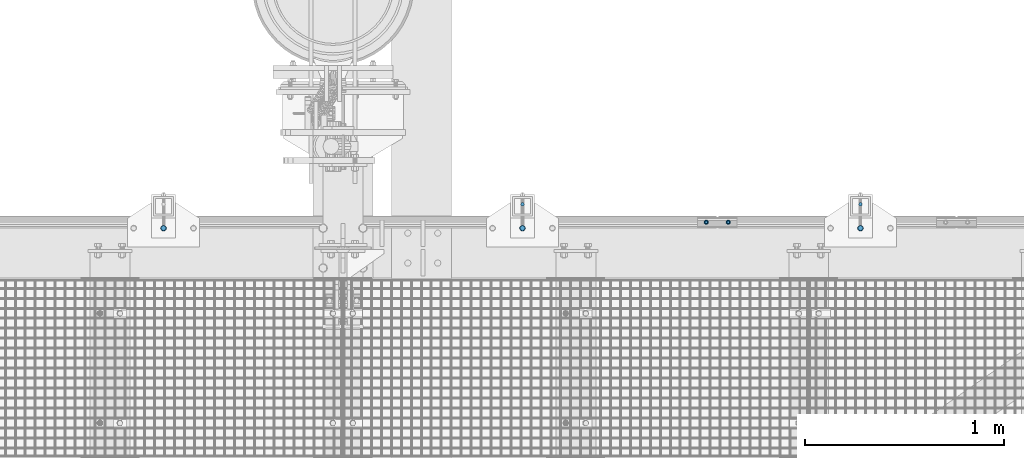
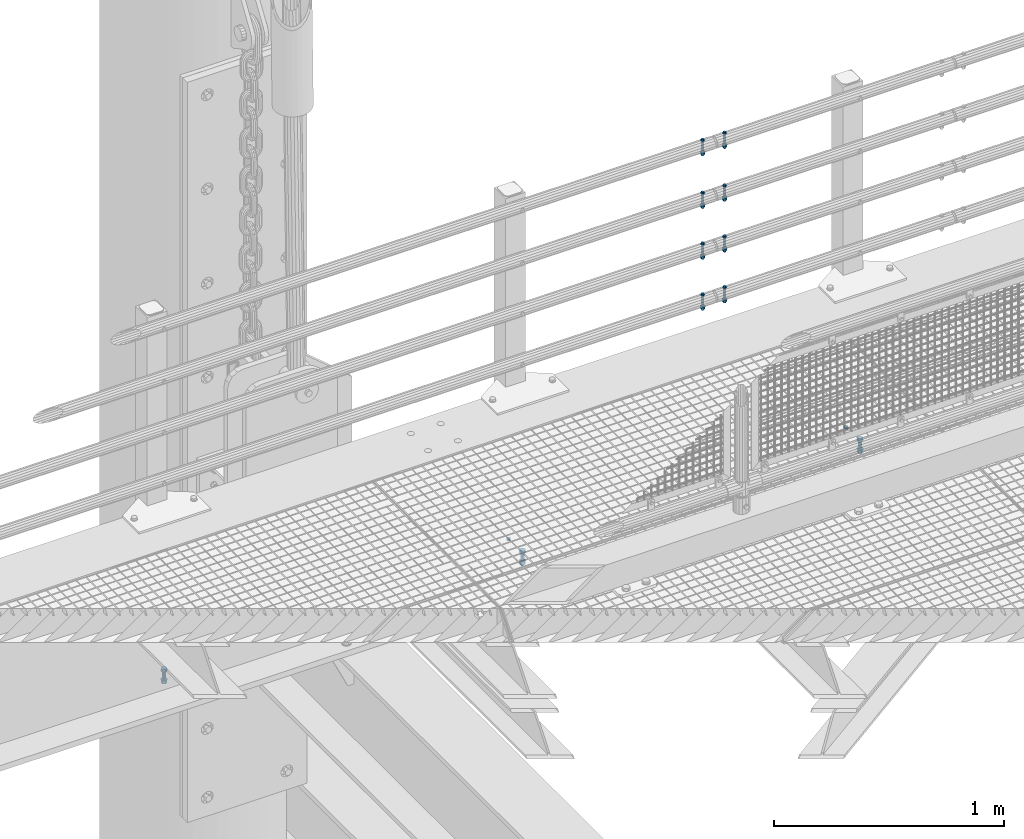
# One storey, part 102 of 1530: 13 mechanical fasteners.
"""IFC2X3 building model written with IfcOpenShell, lengths in millimetres."""

from ifc_helpers import new_model, si_unit, frame, origin_with_axes, place, context, subcontext, project, spatial, faceted_brep, source, transform, mapped, material, type_object, element, save


model = new_model("IFC2X3")

# Units and contexts
model_context = context("Model", 3, precision=1e-05, world=origin_with_axes())
body_context = subcontext(model_context, "Body", "Model", "MODEL_VIEW")
ifc_project = project(units=[si_unit("LENGTHUNIT", "METRE", prefix="MILLI"), si_unit("AREAUNIT", "SQUARE_METRE"), si_unit("VOLUMEUNIT", "CUBIC_METRE"), si_unit("MASSUNIT", "GRAM", prefix="KILO"), si_unit("TIMEUNIT", "SECOND"), si_unit("PLANEANGLEUNIT", "RADIAN"), si_unit("SOLIDANGLEUNIT", "STERADIAN"), si_unit("THERMODYNAMICTEMPERATUREUNIT", "DEGREE_CELSIUS"), si_unit("LUMINOUSINTENSITYUNIT", "LUMEN")], contexts=[model_context])

# Site, building, storey
site_placement = place(None, origin_with_axes())
site = spatial("IfcSite", under=ifc_project, at=site_placement, Name="Brattvåg", CompositionType="ELEMENT")
building_placement = place(site_placement, origin_with_axes())
building = spatial("IfcBuilding", under=site, at=building_placement, Name="Undefined", CompositionType="ELEMENT")
storey_placement = place(building_placement, origin_with_axes())
storey = spatial("IfcBuildingStorey", under=building, at=storey_placement, Name="Undefined", CompositionType="ELEMENT", Elevation=0.0)

# Mechanical fasteners
ifc_material = material(Name="8")
mechanical_fastener_type = type_object("IfcMechanicalFastenerType", Name="Bolt assembly")
shared_shape_1 = source(origin_with_axes(), body_context, "Body", "Brep", [
    faceted_brep([(9.0, -0.000108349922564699, 0.0), (7.79422863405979, -0.000108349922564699, 4.50000000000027), (4.49999999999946, -0.000108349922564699, 7.79422863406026), (-9.3270238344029e-13, -0.000108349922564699, 9.0), (-4.50000000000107, -0.000108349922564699, 7.79422863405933), (-7.79422863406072, -0.000108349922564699, 4.49999999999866), (-9.0, -0.000108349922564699, -1.86540476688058e-12), (-7.79422863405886, -0.000108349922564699, -4.50000000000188), (-4.49999999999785, -0.000108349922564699, -7.79422863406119), (2.78811514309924e-12, -0.000108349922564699, -9.0), (4.50000000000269, -0.000108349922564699, -7.7942286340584), (7.79422863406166, -0.000108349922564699, -4.49999999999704), (7.79422863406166, 10.0998916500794, -4.49999999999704), (4.50000000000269, 10.0998916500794, -7.7942286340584), (2.78811514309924e-12, 10.0998916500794, -9.0), (-4.49999999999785, 10.0998916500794, -7.79422863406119), (-7.79422863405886, 10.0998916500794, -4.50000000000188), (-9.0, 10.0998916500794, -1.86540476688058e-12), (-7.79422863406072, 10.0998916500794, 4.49999999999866), (-4.50000000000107, 10.0998916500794, 7.79422863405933), (-9.3270238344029e-13, 10.0998916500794, 9.0), (4.49999999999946, 10.0998916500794, 7.79422863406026), (7.79422863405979, 10.0998916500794, 4.50000000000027), (9.0, 10.0998916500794, 0.0)], [[[0, 1, 2, 3, 4, 5, 6, 7, 8, 9, 10, 11]], [[12, 13, 14, 15, 16, 17, 18, 19, 20, 21, 22, 23]], [[0, 23, 22, 1]], [[1, 22, 21, 2]], [[2, 21, 20, 3]], [[3, 20, 19, 4]], [[4, 19, 18, 5]], [[5, 18, 17, 6]], [[6, 17, 16, 7]], [[7, 16, 15, 8]], [[8, 15, 14, 9]], [[9, 14, 13, 10]], [[10, 13, 12, 11]], [[11, 12, 23, 0]]]),
])
for number, where, z_axis, x_axis, name in (
    (1, (13150.0001602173, 9219.99992874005, -855.000061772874), (-1.0, 1.99999855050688e-09, 0.0), (0.0, -0.99999999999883, 1.53000000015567e-06), "Bolt assembly"),
    (2, (14845.0001602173, 9219.99992874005, -855.000061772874), (-1.0, 1.99999855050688e-09, 0.0), (0.0, -0.99999999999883, 1.53000000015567e-06), "Bolt assembly"),
):
    element("IfcMechanicalFastener", number, at=place(storey_placement, frame(where, z_axis=z_axis, x_axis=x_axis)), inside=storey, type_object=mechanical_fastener_type, material=ifc_material, Name=name, NominalDiameter=16.0, NominalLength=10.0001087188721, context=body_context, shape_type="MappedRepresentation", body=[
        mapped(shared_shape_1, transform((0.0, 0.0, 0.0))),
    ])
shared_shape_2 = source(origin_with_axes(), body_context, "Body", "Brep", [
    faceted_brep([(6.49435320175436, -7.50000000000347, 0.0), (4.59220118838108, -7.50000000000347, 4.59220118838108), (3.97664443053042e-16, -7.50000000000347, 6.49435320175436), (-4.59220118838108, -7.50000000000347, 4.59220118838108), (-6.49435320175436, -7.50000000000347, 7.95328886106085e-16), (-4.59220118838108, -7.50000000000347, -4.59220118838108), (-1.19299332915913e-15, -7.50000000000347, -6.49435320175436), (4.59220118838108, -7.50000000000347, -4.59220118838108), (7.34846922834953, -3.46744855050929e-12, -7.34846922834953), (-1.90903542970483e-15, -3.46744855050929e-12, -10.3923048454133), (-7.34846922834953, -3.46744855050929e-12, -7.34846922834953), (-10.3923048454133, 3.46808519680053e-07, 1.27269028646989e-15), (-7.34846922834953, -3.46744855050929e-12, 7.34846922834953), (6.36345143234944e-16, -3.46744855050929e-12, 10.3923048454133), (7.34846922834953, -3.46744855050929e-12, 7.34846922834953), (10.3923048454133, 3.46808519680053e-07, 0.0), (6.0, 3.46808519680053e-07, 0.0), (5.19615242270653, 3.46808519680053e-07, 3.00000000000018), (2.99999999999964, 3.46808519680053e-07, 5.19615242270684), (-6.21801588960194e-13, 3.46808519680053e-07, 6.0), (-3.00000000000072, 3.46808519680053e-07, 5.19615242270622), (-5.19615242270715, 3.46808519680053e-07, 2.9999999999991), (-6.0, 3.46808519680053e-07, -1.24360317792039e-12), (-5.19615242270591, 3.46808519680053e-07, -3.00000000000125), (-2.99999999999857, 3.46808519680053e-07, -5.19615242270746), (1.85874342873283e-12, 3.46808519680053e-07, -6.0), (3.00000000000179, 3.46808519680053e-07, -5.1961524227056), (5.19615242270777, 3.46808519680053e-07, -2.99999999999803), (5.19615242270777, 79.9999999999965, -2.99999999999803), (3.00000000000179, 79.9999999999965, -5.1961524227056), (1.85874342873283e-12, 79.9999999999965, -6.0), (-2.99999999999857, 79.9999999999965, -5.19615242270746), (-5.19615242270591, 79.9999999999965, -3.00000000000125), (-6.0, 79.9999999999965, -1.24360317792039e-12), (-5.19615242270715, 79.9999999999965, 2.9999999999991), (-3.00000000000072, 79.9999999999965, 5.19615242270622), (-6.21801588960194e-13, 79.9999999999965, 6.0), (2.99999999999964, 79.9999999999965, 5.19615242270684), (5.19615242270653, 79.9999999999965, 3.00000000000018), (6.0, 79.9999999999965, 0.0), (12.0, 60.2988956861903, 0.0), (10.3923048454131, 60.2988956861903, 6.00000000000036), (5.99999999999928, 60.2988956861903, 10.3923048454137), (-1.24360317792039e-12, 60.2988956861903, 12.0), (-6.00000000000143, 60.2988956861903, 10.3923048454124), (-10.3923048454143, 60.2988956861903, 5.99999999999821), (-12.0, 60.2988956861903, -2.48720635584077e-12), (-10.3923048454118, 60.2988956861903, -6.00000000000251), (-5.99999999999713, 60.2988956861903, -10.3923048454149), (3.71748685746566e-12, 60.2988956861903, -12.0), (6.00000000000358, 60.2988956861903, -10.3923048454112), (10.3923048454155, 60.2988956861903, -5.99999999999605), (10.3923048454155, 62.7988956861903, -5.99999999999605), (6.00000000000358, 62.7988956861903, -10.3923048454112), (3.71748685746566e-12, 62.7988956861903, -12.0), (-5.99999999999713, 62.7988956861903, -10.3923048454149), (-10.3923048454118, 62.7988956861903, -6.00000000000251), (-12.0, 62.7988956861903, -2.48720635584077e-12), (-10.3923048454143, 62.7988956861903, 5.99999999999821), (-6.00000000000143, 62.7988956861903, 10.3923048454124), (-1.24360317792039e-12, 62.7988956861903, 12.0), (5.99999999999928, 62.7988956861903, 10.3923048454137), (10.3923048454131, 62.7988956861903, 6.00000000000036), (12.0, 62.7988956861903, 0.0), (10.9696551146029, 62.7988956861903, 0.0), (5.48482755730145, 62.7988956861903, 9.5), (-5.48482755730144, 62.7988956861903, 9.5), (-10.9696551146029, 62.7988956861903, 1.34339530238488e-15), (-5.48482755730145, 62.7988956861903, -9.5), (5.48482755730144, 62.7988956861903, -9.5), (5.48482755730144, 73.5988958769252, -9.5), (-5.48482755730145, 73.5988958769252, -9.5), (-10.9696551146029, 73.5988958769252, 1.34339530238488e-15), (-5.48482755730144, 73.5988958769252, 9.5), (5.48482755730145, 73.5988958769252, 9.5), (10.9696551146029, 73.5988958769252, 0.0)], [[[0, 1, 2, 3, 4, 5, 6, 7]], [[8, 9, 10, 11, 12, 13, 14, 15]], [[0, 15, 14, 1]], [[1, 14, 13, 2]], [[2, 13, 12, 3]], [[3, 12, 11, 4]], [[4, 11, 10, 5]], [[5, 10, 9, 6]], [[6, 9, 8, 7]], [[7, 8, 15, 0]], [[16, 17, 18, 19, 20, 21, 22, 23, 24, 25, 26, 27]], [[28, 29, 30, 31, 32, 33, 34, 35, 36, 37, 38, 39]], [[16, 39, 38, 17]], [[17, 38, 37, 18]], [[18, 37, 36, 19]], [[19, 36, 35, 20]], [[20, 35, 34, 21]], [[21, 34, 33, 22]], [[22, 33, 32, 23]], [[23, 32, 31, 24]], [[24, 31, 30, 25]], [[25, 30, 29, 26]], [[26, 29, 28, 27]], [[27, 28, 39, 16]], [[40, 41, 42, 43, 44, 45, 46, 47, 48, 49, 50, 51]], [[52, 53, 54, 55, 56, 57, 58, 59, 60, 61, 62, 63]], [[40, 63, 62, 41]], [[41, 62, 61, 42]], [[42, 61, 60, 43]], [[43, 60, 59, 44]], [[44, 59, 58, 45]], [[45, 58, 57, 46]], [[46, 57, 56, 47]], [[47, 56, 55, 48]], [[48, 55, 54, 49]], [[49, 54, 53, 50]], [[50, 53, 52, 51]], [[51, 52, 63, 40]], [[64, 65, 66, 67, 68, 69]], [[70, 71, 72, 73, 74, 75]], [[64, 75, 74, 65]], [[65, 74, 73, 66]], [[66, 73, 72, 67]], [[67, 72, 71, 68]], [[68, 71, 70, 69]], [[69, 70, 75, 64]]]),
    faceted_brep([(6.5, 0.100000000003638, 0.0), (5.62916512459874, 0.100000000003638, 3.25000000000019), (3.24999999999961, 0.100000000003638, 5.62916512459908), (-6.7361838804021e-13, 0.100000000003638, 6.5), (-3.25000000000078, 0.100000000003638, 5.6291651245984), (-5.62916512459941, 0.100000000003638, 3.24999999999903), (-6.5, 0.100000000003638, -1.34723677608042e-12), (-5.62916512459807, 0.100000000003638, -3.25000000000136), (-3.24999999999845, 0.100000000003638, -5.62916512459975), (2.01363871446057e-12, 0.100000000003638, -6.5), (3.25000000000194, 0.100000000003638, -5.62916512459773), (5.62916512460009, 0.100000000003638, -3.24999999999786), (5.62916512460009, 60.3988956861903, -3.24999999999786), (3.25000000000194, 60.3988956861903, -5.62916512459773), (2.01363871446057e-12, 60.3988956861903, -6.5), (-3.24999999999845, 60.3988956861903, -5.62916512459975), (-5.62916512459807, 60.3988956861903, -3.25000000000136), (-6.5, 60.3988956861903, -1.34723677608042e-12), (-5.62916512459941, 60.3988956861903, 3.24999999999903), (-3.25000000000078, 60.3988956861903, 5.6291651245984), (-6.7361838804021e-13, 60.3988956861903, 6.5), (3.24999999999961, 60.3988956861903, 5.62916512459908), (5.62916512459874, 60.3988956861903, 3.25000000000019), (6.5, 60.3988956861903, 0.0), (6.5, 4.25026510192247, 0.0), (5.62916512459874, 4.25026510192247, 3.25000000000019), (3.24999999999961, 4.25026510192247, 5.62916512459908), (-6.7361838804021e-13, 4.25026510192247, 6.5), (-3.25000000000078, 4.25026510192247, 5.6291651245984), (-5.62916512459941, 4.25026510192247, 3.24999999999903), (-6.5, 4.25026510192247, -1.34723677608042e-12), (-5.62916512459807, 4.25026510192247, -3.25000000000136), (-3.24999999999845, 4.25026510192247, -5.62916512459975), (2.01363871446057e-12, 4.25026510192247, -6.5), (3.25000000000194, 4.25026510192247, -5.62916512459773), (5.62916512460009, 4.25026510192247, -3.24999999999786), (5.62916512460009, 55.3491717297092, -3.24999999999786), (3.25000000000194, 55.3491717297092, -5.62916512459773), (2.01363871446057e-12, 55.3491717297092, -6.5), (-3.24999999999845, 55.3491717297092, -5.62916512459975), (-5.62916512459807, 55.3491717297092, -3.25000000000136), (-6.5, 55.3491717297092, -1.34723677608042e-12), (-5.62916512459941, 55.3491717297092, 3.24999999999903), (-3.25000000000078, 55.3491717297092, 5.6291651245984), (-6.7361838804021e-13, 55.3491717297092, 6.5), (3.24999999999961, 55.3491717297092, 5.62916512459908), (5.62916512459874, 55.3491717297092, 3.25000000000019), (6.5, 55.3491717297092, 0.0)], [[[0, 1, 2, 3, 4, 5, 6, 7, 8, 9, 10, 11]], [[12, 13, 14, 15, 16, 17, 18, 19, 20, 21, 22, 23]], [[0, 23, 22, 1]], [[1, 22, 21, 2]], [[2, 21, 20, 3]], [[3, 20, 19, 4]], [[4, 19, 18, 5]], [[5, 18, 17, 6]], [[6, 17, 16, 7]], [[7, 16, 15, 8]], [[8, 15, 14, 9]], [[9, 14, 13, 10]], [[10, 13, 12, 11]], [[11, 12, 23, 0]], [[24, 25, 26, 27, 28, 29, 30, 31, 32, 33, 34, 35]], [[36, 37, 38, 39, 40, 41, 42, 43, 44, 45, 46, 47]], [[24, 47, 46, 25]], [[25, 46, 45, 26]], [[26, 45, 44, 27]], [[27, 44, 43, 28]], [[28, 43, 42, 29]], [[29, 42, 41, 30]], [[30, 41, 40, 31]], [[31, 40, 39, 32]], [[32, 39, 38, 33]], [[33, 38, 37, 34]], [[34, 37, 36, 35]], [[35, 36, 47, 24]]]),
])
for number, where, z_axis, x_axis, name in (
    (3, (14072.0001373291, 9129.84988021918, 179.7000579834), (1.0, 0.0, 0.0), (0.0, -0.999999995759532, -9.20919999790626e-05), "Bolt assembly"),
    (4, (14072.0001373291, 9129.84988021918, 449.7000579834), (1.0, 0.0, 0.0), (0.0, -0.999999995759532, -9.20919999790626e-05), "Bolt assembly"),
    (5, (14072.0001373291, 9129.84988021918, 719.7000579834), (1.0, 0.0, 0.0), (0.0, -0.999999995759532, -9.20919999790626e-05), "Bolt assembly"),
    (6, (14181.9998626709, 9129.84988021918, 179.7000579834), (1.0, 0.0, 0.0), (0.0, -0.999999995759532, -9.20919999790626e-05), "Bolt assembly"),
    (7, (14181.9998626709, 9129.84988021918, 449.7000579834), (1.0, 0.0, 0.0), (0.0, -0.999999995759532, -9.20919999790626e-05), "Bolt assembly"),
    (8, (14181.9998626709, 9129.84988021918, 719.7000579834), (1.0, 0.0, 0.0), (0.0, -0.999999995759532, -9.20919999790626e-05), "Bolt assembly"),
    (9, (14072.0001373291, 9129.84988021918, 999.7000579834), (1.0, 0.0, 0.0), (0.0, -0.999999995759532, -9.20919999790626e-05), "Bolt assembly"),
    (10, (14181.9998626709, 9129.84988021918, 999.7000579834), (1.0, 0.0, 0.0), (0.0, -0.999999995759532, -9.20919999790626e-05), "Bolt assembly"),
):
    element("IfcMechanicalFastener", number, at=place(storey_placement, frame(where, z_axis=z_axis, x_axis=x_axis)), inside=storey, type_object=mechanical_fastener_type, material=ifc_material, Name=name, NominalDiameter=12.0, NominalLength=80.0, context=body_context, shape_type="MappedRepresentation", body=[
        mapped(shared_shape_2, transform((0.0, 0.0, 0.0))),
    ])
shared_shape_3 = source(origin_with_axes(), body_context, "Body", "Brep", [
    faceted_brep([(13.856406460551, -12.9998916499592, 0.0), (6.92820323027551, -12.9998916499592, 12.0), (-6.92820323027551, -12.9998916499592, 12.0), (-13.856406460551, -12.9998916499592, 1.69692038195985e-15), (-6.92820323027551, -12.9998916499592, -12.0), (6.9282032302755, -12.9998916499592, -12.0), (6.9282032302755, -2.99989164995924, -12.0), (-6.92820323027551, -2.99989164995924, -12.0), (-13.856406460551, -2.99989164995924, 1.69692038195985e-15), (-6.92820323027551, -2.99989164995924, 12.0), (6.92820323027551, -2.99989164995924, 12.0), (13.856406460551, -2.99989164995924, 0.0), (8.0, -2.99989164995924, 0.0), (6.92820323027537, -2.99989164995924, 4.00000000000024), (3.99999999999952, -2.99989164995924, 6.92820323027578), (-8.29068785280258e-13, -2.99989164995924, 8.0), (-4.00000000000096, -2.99989164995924, 6.92820323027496), (-6.9282032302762, -2.99989164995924, 3.99999999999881), (-8.0, -2.99989164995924, -1.65813757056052e-12), (-6.92820323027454, -2.99989164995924, -4.00000000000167), (-3.99999999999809, -2.99989164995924, -6.92820323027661), (2.47832457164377e-12, -2.99989164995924, -8.0), (4.00000000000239, -2.99989164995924, -6.92820323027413), (6.92820323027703, -2.99989164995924, -3.99999999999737), (6.92820323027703, 67.0001083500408, -3.99999999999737), (4.00000000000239, 67.0001083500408, -6.92820323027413), (2.47832457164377e-12, 67.0001083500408, -8.0), (-3.99999999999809, 67.0001083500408, -6.92820323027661), (-6.92820323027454, 67.0001083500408, -4.00000000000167), (-8.0, 67.0001083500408, -1.65813757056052e-12), (-6.9282032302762, 67.0001083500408, 3.99999999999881), (-4.00000000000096, 67.0001083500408, 6.92820323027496), (-8.29068785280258e-13, 67.0001083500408, 8.0), (3.99999999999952, 67.0001083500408, 6.92820323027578), (6.92820323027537, 67.0001083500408, 4.00000000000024), (8.0, 67.0001083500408, 0.0), (15.0, -2.99989164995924, 0.0), (12.9903810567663, -2.99989164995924, 7.50000000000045), (7.4999999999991, -2.99989164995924, 12.9903810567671), (-1.55450397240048e-12, -2.99989164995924, 15.0), (-7.50000000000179, -2.99989164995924, 12.9903810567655), (-12.9903810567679, -2.99989164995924, 7.49999999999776), (-15.0, -2.99989164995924, -3.10900794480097e-12), (-12.9903810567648, -2.99989164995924, -7.50000000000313), (-7.49999999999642, -2.99989164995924, -12.9903810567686), (4.64685857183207e-12, -2.99989164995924, -15.0), (7.50000000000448, -2.99989164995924, -12.990381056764), (12.9903810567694, -2.99989164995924, -7.49999999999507), (12.9903810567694, 0.000108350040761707, -7.49999999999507), (7.50000000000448, 0.000108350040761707, -12.990381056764), (4.64685857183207e-12, 0.000108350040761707, -15.0), (-7.49999999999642, 0.000108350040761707, -12.9903810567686), (-12.9903810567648, 0.000108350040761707, -7.50000000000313), (-15.0, 0.000108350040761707, -3.10900794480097e-12), (-12.9903810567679, 0.000108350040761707, 7.49999999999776), (-7.50000000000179, 0.000108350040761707, 12.9903810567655), (-1.55450397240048e-12, 0.000108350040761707, 15.0), (7.4999999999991, 0.000108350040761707, 12.9903810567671), (12.9903810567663, 0.000108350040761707, 7.50000000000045), (15.0, 0.000108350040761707, 0.0), (15.0, 45.0001982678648, 0.0), (12.9903810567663, 45.0001982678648, 7.50000000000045), (7.4999999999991, 45.0001982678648, 12.9903810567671), (-1.55450397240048e-12, 45.0001982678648, 15.0), (-7.50000000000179, 45.0001982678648, 12.9903810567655), (-12.9903810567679, 45.0001982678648, 7.49999999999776), (-15.0, 45.0001982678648, -3.10900794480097e-12), (-12.9903810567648, 45.0001982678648, -7.50000000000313), (-7.49999999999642, 45.0001982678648, -12.9903810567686), (4.64685857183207e-12, 45.0001982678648, -15.0), (7.50000000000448, 45.0001982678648, -12.990381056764), (12.9903810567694, 45.0001982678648, -7.49999999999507), (12.9903810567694, 48.0001982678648, -7.49999999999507), (7.50000000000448, 48.0001982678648, -12.990381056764), (4.64685857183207e-12, 48.0001982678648, -15.0), (-7.49999999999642, 48.0001982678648, -12.9903810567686), (-12.9903810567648, 48.0001982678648, -7.50000000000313), (-15.0, 48.0001982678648, -3.10900794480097e-12), (-12.9903810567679, 48.0001982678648, 7.49999999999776), (-7.50000000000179, 48.0001982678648, 12.9903810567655), (-1.55450397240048e-12, 48.0001982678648, 15.0), (7.4999999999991, 48.0001982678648, 12.9903810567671), (12.9903810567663, 48.0001982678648, 7.50000000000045), (15.0, 48.0001982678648, 0.0), (13.856406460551, 48.0001982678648, 0.0), (6.92820323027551, 48.0001982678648, 12.0), (-6.92820323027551, 48.0001982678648, 12.0), (-13.856406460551, 48.0001982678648, 1.69692038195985e-15), (-6.92820323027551, 48.0001982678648, -12.0), (6.9282032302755, 48.0001982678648, -12.0), (6.9282032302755, 62.8001984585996, -12.0), (-6.92820323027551, 62.8001984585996, -12.0), (-13.856406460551, 62.8001984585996, 1.69692038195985e-15), (-6.92820323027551, 62.8001984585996, 12.0), (6.92820323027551, 62.8001984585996, 12.0), (13.856406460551, 62.8001984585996, 0.0)], [[[0, 1, 2, 3, 4, 5]], [[6, 7, 8, 9, 10, 11]], [[0, 11, 10, 1]], [[1, 10, 9, 2]], [[2, 9, 8, 3]], [[3, 8, 7, 4]], [[4, 7, 6, 5]], [[5, 6, 11, 0]], [[12, 13, 14, 15, 16, 17, 18, 19, 20, 21, 22, 23]], [[24, 25, 26, 27, 28, 29, 30, 31, 32, 33, 34, 35]], [[12, 35, 34, 13]], [[13, 34, 33, 14]], [[14, 33, 32, 15]], [[15, 32, 31, 16]], [[16, 31, 30, 17]], [[17, 30, 29, 18]], [[18, 29, 28, 19]], [[19, 28, 27, 20]], [[20, 27, 26, 21]], [[21, 26, 25, 22]], [[22, 25, 24, 23]], [[23, 24, 35, 12]], [[36, 37, 38, 39, 40, 41, 42, 43, 44, 45, 46, 47]], [[48, 49, 50, 51, 52, 53, 54, 55, 56, 57, 58, 59]], [[36, 59, 58, 37]], [[37, 58, 57, 38]], [[38, 57, 56, 39]], [[39, 56, 55, 40]], [[40, 55, 54, 41]], [[41, 54, 53, 42]], [[42, 53, 52, 43]], [[43, 52, 51, 44]], [[44, 51, 50, 45]], [[45, 50, 49, 46]], [[46, 49, 48, 47]], [[47, 48, 59, 36]], [[60, 61, 62, 63, 64, 65, 66, 67, 68, 69, 70, 71]], [[72, 73, 74, 75, 76, 77, 78, 79, 80, 81, 82, 83]], [[60, 83, 82, 61]], [[61, 82, 81, 62]], [[62, 81, 80, 63]], [[63, 80, 79, 64]], [[64, 79, 78, 65]], [[65, 78, 77, 66]], [[66, 77, 76, 67]], [[67, 76, 75, 68]], [[68, 75, 74, 69]], [[69, 74, 73, 70]], [[70, 73, 72, 71]], [[71, 72, 83, 60]], [[84, 85, 86, 87, 88, 89]], [[90, 91, 92, 93, 94, 95]], [[84, 95, 94, 85]], [[85, 94, 93, 86]], [[86, 93, 92, 87]], [[87, 92, 91, 88]], [[88, 91, 90, 89]], [[89, 90, 95, 84]]]),
    faceted_brep([(9.0, 0.100108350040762, 0.0), (7.79422863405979, 0.100108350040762, 4.50000000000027), (4.49999999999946, 0.100108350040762, 7.79422863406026), (-9.3270238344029e-13, 0.100108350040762, 9.0), (-4.50000000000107, 0.100108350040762, 7.79422863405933), (-7.79422863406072, 0.100108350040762, 4.49999999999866), (-9.0, 0.100108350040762, -1.86540476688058e-12), (-7.79422863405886, 0.100108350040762, -4.50000000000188), (-4.49999999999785, 0.100108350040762, -7.79422863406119), (2.78811514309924e-12, 0.100108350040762, -9.0), (4.50000000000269, 0.100108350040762, -7.7942286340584), (7.79422863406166, 0.100108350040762, -4.49999999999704), (7.79422863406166, 10.10010835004, -4.49999999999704), (4.50000000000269, 10.10010835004, -7.7942286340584), (2.78811514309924e-12, 10.10010835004, -9.0), (-4.49999999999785, 10.10010835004, -7.79422863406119), (-7.79422863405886, 10.10010835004, -4.50000000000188), (-9.0, 10.10010835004, -1.86540476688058e-12), (-7.79422863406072, 10.10010835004, 4.49999999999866), (-4.50000000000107, 10.10010835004, 7.79422863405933), (-9.3270238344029e-13, 10.10010835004, 9.0), (4.49999999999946, 10.10010835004, 7.79422863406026), (7.79422863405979, 10.10010835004, 4.50000000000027), (9.0, 10.10010835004, 0.0), (9.0, 10.0002383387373, 0.0), (7.79422863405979, 10.0002383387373, 4.50000000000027), (4.49999999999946, 10.0002383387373, 7.79422863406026), (-9.3270238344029e-13, 10.0002383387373, 9.0), (-4.50000000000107, 10.0002383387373, 7.79422863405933), (-7.79422863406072, 10.0002383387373, 4.49999999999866), (-9.0, 10.0002383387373, -1.86540476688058e-12), (-7.79422863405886, 10.0002383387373, -4.50000000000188), (-4.49999999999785, 10.0002383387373, -7.79422863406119), (2.78811514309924e-12, 10.0002383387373, -9.0), (4.50000000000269, 10.0002383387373, -7.7942286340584), (7.79422863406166, 10.0002383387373, -4.49999999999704), (7.79422863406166, 15.000238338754, -4.49999999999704), (4.50000000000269, 15.000238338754, -7.7942286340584), (2.78811514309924e-12, 15.000238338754, -9.0), (-4.49999999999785, 15.000238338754, -7.79422863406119), (-7.79422863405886, 15.000238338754, -4.50000000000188), (-9.0, 15.000238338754, -1.86540476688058e-12), (-7.79422863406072, 15.000238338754, 4.49999999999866), (-4.50000000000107, 15.000238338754, 7.79422863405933), (-9.3270238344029e-13, 15.000238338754, 9.0), (4.49999999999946, 15.000238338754, 7.79422863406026), (7.79422863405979, 15.000238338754, 4.50000000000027), (9.0, 15.000238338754, 0.0), (9.0, 14.9001982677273, 0.0), (7.79422863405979, 14.9001982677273, 4.50000000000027), (4.49999999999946, 14.9001982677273, 7.79422863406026), (-9.3270238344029e-13, 14.9001982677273, 9.0), (-4.50000000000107, 14.9001982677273, 7.79422863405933), (-7.79422863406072, 14.9001982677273, 4.49999999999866), (-9.0, 14.9001982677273, -1.86540476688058e-12), (-7.79422863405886, 14.9001982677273, -4.50000000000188), (-4.49999999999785, 14.9001982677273, -7.79422863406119), (2.78811514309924e-12, 14.9001982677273, -9.0), (4.50000000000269, 14.9001982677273, -7.7942286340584), (7.79422863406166, 14.9001982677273, -4.49999999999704), (7.79422863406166, 45.0001982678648, -4.49999999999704), (4.50000000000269, 45.0001982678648, -7.7942286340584), (2.78811514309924e-12, 45.0001982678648, -9.0), (-4.49999999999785, 45.0001982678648, -7.79422863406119), (-7.79422863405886, 45.0001982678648, -4.50000000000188), (-9.0, 45.0001982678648, -1.86540476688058e-12), (-7.79422863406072, 45.0001982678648, 4.49999999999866), (-4.50000000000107, 45.0001982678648, 7.79422863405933), (-9.3270238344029e-13, 45.0001982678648, 9.0), (4.49999999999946, 45.0001982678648, 7.79422863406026), (7.79422863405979, 45.0001982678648, 4.50000000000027), (9.0, 45.0001982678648, 0.0)], [[[0, 1, 2, 3, 4, 5, 6, 7, 8, 9, 10, 11]], [[12, 13, 14, 15, 16, 17, 18, 19, 20, 21, 22, 23]], [[0, 23, 22, 1]], [[1, 22, 21, 2]], [[2, 21, 20, 3]], [[3, 20, 19, 4]], [[4, 19, 18, 5]], [[5, 18, 17, 6]], [[6, 17, 16, 7]], [[7, 16, 15, 8]], [[8, 15, 14, 9]], [[9, 14, 13, 10]], [[10, 13, 12, 11]], [[11, 12, 23, 0]], [[24, 25, 26, 27, 28, 29, 30, 31, 32, 33, 34, 35]], [[36, 37, 38, 39, 40, 41, 42, 43, 44, 45, 46, 47]], [[24, 47, 46, 25]], [[25, 46, 45, 26]], [[26, 45, 44, 27]], [[27, 44, 43, 28]], [[28, 43, 42, 29]], [[29, 42, 41, 30]], [[30, 41, 40, 31]], [[31, 40, 39, 32]], [[32, 39, 38, 33]], [[33, 38, 37, 34]], [[34, 37, 36, 35]], [[35, 36, 47, 24]], [[48, 49, 50, 51, 52, 53, 54, 55, 56, 57, 58, 59]], [[60, 61, 62, 63, 64, 65, 66, 67, 68, 69, 70, 71]], [[48, 71, 70, 49]], [[49, 70, 69, 50]], [[50, 69, 68, 51]], [[51, 68, 67, 52]], [[52, 67, 66, 53]], [[53, 66, 65, 54]], [[54, 65, 64, 55]], [[55, 64, 63, 56]], [[56, 63, 62, 57]], [[57, 62, 61, 58]], [[58, 61, 60, 59]], [[59, 60, 71, 48]]]),
])
for number, where, z_axis, x_axis, name in (
    (11, (11350.0001602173, 9099.99968338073, -844.999801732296), (-1.0, 1.99999855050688e-09, 0.0), (0.0, 0.999999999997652, -2.16700000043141e-06), "Bolt assembly"),
    (12, (13150.0001602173, 9099.99968338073, -844.999801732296), (-1.0, 1.99999855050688e-09, 0.0), (0.0, 0.999999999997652, -2.16700000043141e-06), "Bolt assembly"),
    (13, (14845.0001602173, 9099.99968338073, -844.999801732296), (-1.0, 1.99999855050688e-09, 0.0), (0.0, 0.999999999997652, -2.16700000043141e-06), "Bolt assembly"),
):
    element("IfcMechanicalFastener", number, at=place(storey_placement, frame(where, z_axis=z_axis, x_axis=x_axis)), inside=storey, type_object=mechanical_fastener_type, material=ifc_material, Name=name, NominalDiameter=16.0, NominalLength=70.0, context=body_context, shape_type="MappedRepresentation", body=[
        mapped(shared_shape_3, transform((0.0, 0.0, 0.0))),
    ])

save(model, "model.ifc")
